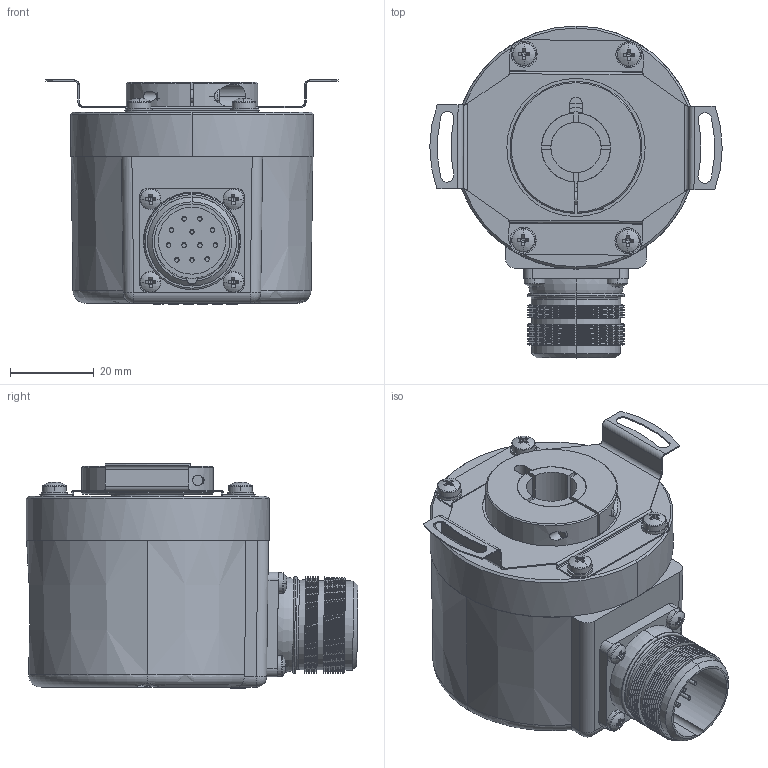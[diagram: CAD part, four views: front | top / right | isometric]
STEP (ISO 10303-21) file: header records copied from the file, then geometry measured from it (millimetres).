
FILE_DESCRIPTION (( 'STEP AP203' ), '1' );
FILE_NAME ('E58HM-SSI-353##.STEP', '2024-11-20T09:04:09', ( '' ), ( '' ), 'SwSTEP 2.0', 'SolidWorks 2023', '' );
FILE_SCHEMA (( 'CONFIG_CONTROL_DESIGN' ));
Length unit declared in the file: millimetre
Products named in the file (1): E58HM-SSI-353##
Bounding box: 69.8 x 79.21 x 53.5 mm (x, y, z)
Volume: 126824.6 mm3; surface area: 27955.4 mm2
Topology: 13 solids, 21 shells, 1049 faces, 2517 edges, 1523 vertices
Faces by surface type: plane 476, cylinder 275, cone 200, torus 61, sphere 22, bspline 15
Entity records: 31280 total; most frequent: CARTESIAN_POINT 6841, DIRECTION 5331, ORIENTED_EDGE 4962, EDGE_CURVE 2481, AXIS2_PLACEMENT_3D 2117, VERTEX_POINT 1523, EDGE_LOOP 1156, LINE 1097
